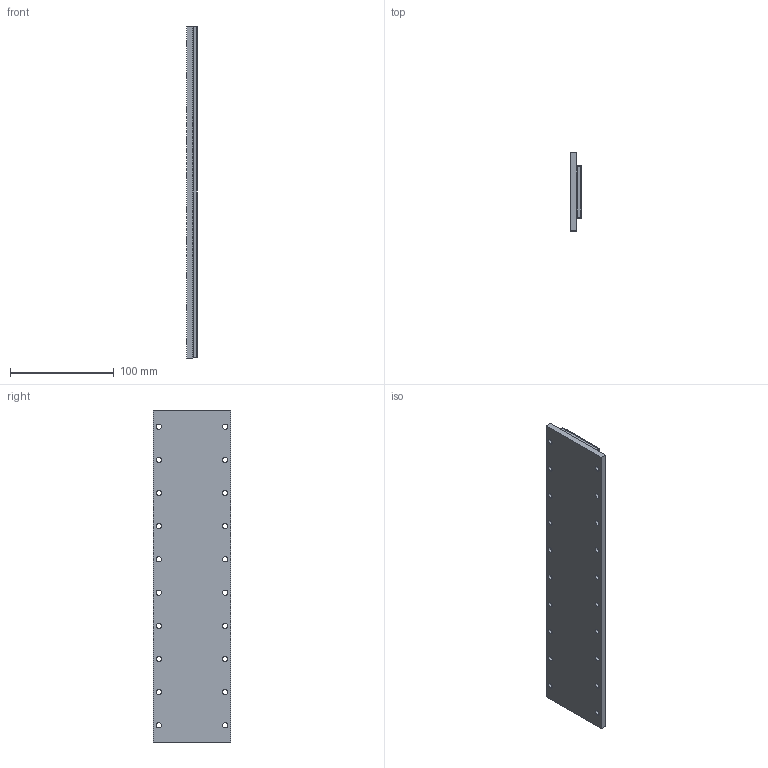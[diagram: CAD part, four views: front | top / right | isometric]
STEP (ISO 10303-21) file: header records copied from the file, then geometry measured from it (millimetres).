
FILE_DESCRIPTION (( 'STEP AP214' ), '1' );
FILE_NAME ('PIXM050-TL320-C.STEP', '2019-03-08T10:33:57', ( '' ), ( '' ), 'SwSTEP 2.0', 'SolidWorks 2016', '' );
FILE_SCHEMA (( 'AUTOMOTIVE_DESIGN' ));
Length unit declared in the file: millimetre
Products named in the file (4): 001SM050LXXX02_TL320; 001SM050000001-CUSTOMER_TL320; 001SM050LXXX01_TL320; PIXM050-TL320-C
Assembly tree (3 placements, depth 2):
  PIXM050-TL320-C
    001SM050LXXX01_TL320
    001SM050000001-CUSTOMER_TL320
    001SM050LXXX02_TL320
Bounding box: 10.3 x 75 x 320 mm (x, y, z)
Volume: 208365.9 mm3; surface area: 125958.8 mm2
Topology: 3 solids, 3 shells, 165 faces, 382 edges, 236 vertices
Faces by surface type: cylinder 96, plane 61, sphere 8
Entity records: 4894 total; most frequent: DIRECTION 908, CARTESIAN_POINT 781, ORIENTED_EDGE 748, EDGE_CURVE 374, AXIS2_PLACEMENT_3D 363, VERTEX_POINT 236, EDGE_LOOP 226, CIRCLE 192
